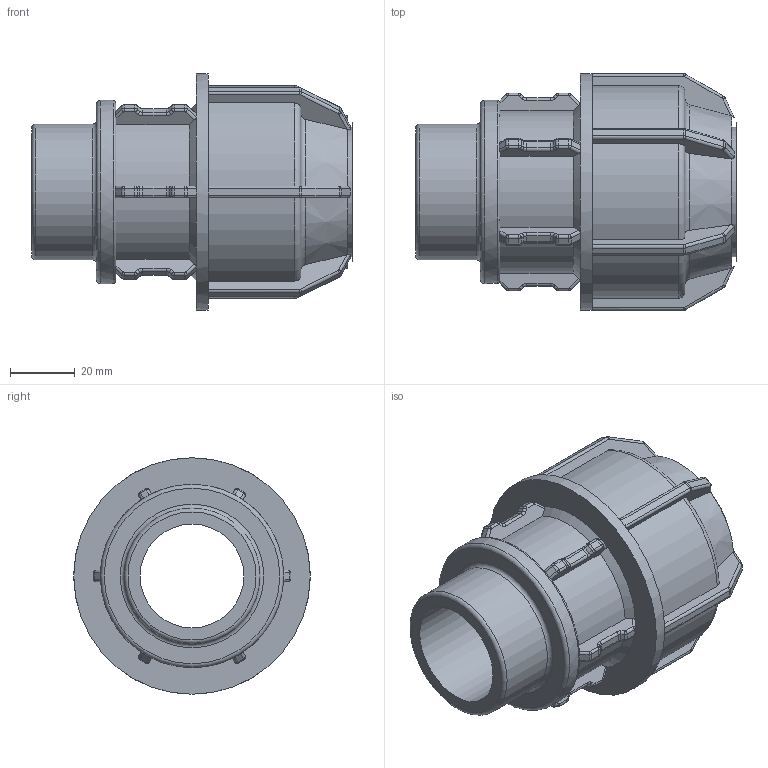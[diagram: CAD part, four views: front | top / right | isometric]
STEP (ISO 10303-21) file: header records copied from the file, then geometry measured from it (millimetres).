
FILE_DESCRIPTION(/* description */ ('PLASSON L.14 MALE ADAPTOR (SILVER) 40-1.1/4'''''),/* implementation_level */ '2;1');
FILE_NAME(/* name */ 'C:\Dropbox\KIMPROJECTS-Inventor\99-16-3568-Processing\Silver+MF ISRAEL\140200\140200040013.ipt.stp',/* time_stamp */ '2018-04-09T13:02:47+03:00',/* author */ ('KIM'),/* organization */ (''),/* preprocessor_version */ 'ST-DEVELOPER v15.6',/* originating_system */ 'Autodesk Inventor 2015',/* authorisation */ '');
FILE_SCHEMA (('AUTOMOTIVE_DESIGN { 1 0 10303 214 3 1 1 }'));
Length unit declared in the file: millimetre
Products named in the file (1): 140200040013
Bounding box: 99 x 73 x 73 mm (x, y, z)
Volume: 129991.9 mm3; surface area: 38745.3 mm2
Topology: 1 solids, 1 shells, 471 faces, 1161 edges, 689 vertices
Faces by surface type: cylinder 186, plane 158, bspline 72, torus 42, cone 13
Full cylindrical faces by diameter (mm): 32 x1, 40 x2, 41.91 x1, 56.578 x1, 73 x1
Entity records: 14498 total; most frequent: CARTESIAN_POINT 3782, DIRECTION 2310, ORIENTED_EDGE 2252, EDGE_CURVE 1126, AXIS2_PLACEMENT_3D 930, VERTEX_POINT 676, CIRCLE 508, EDGE_LOOP 488
